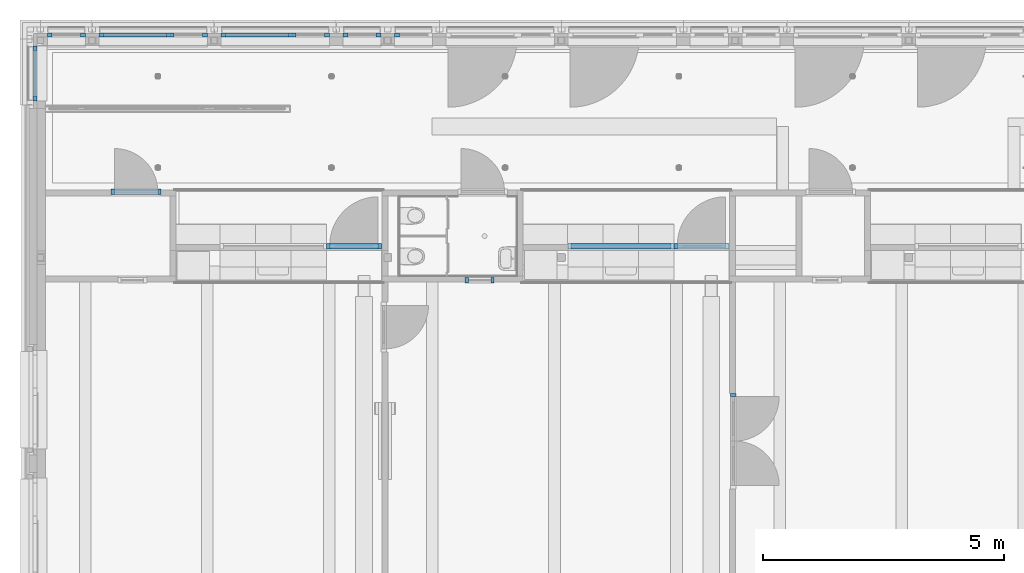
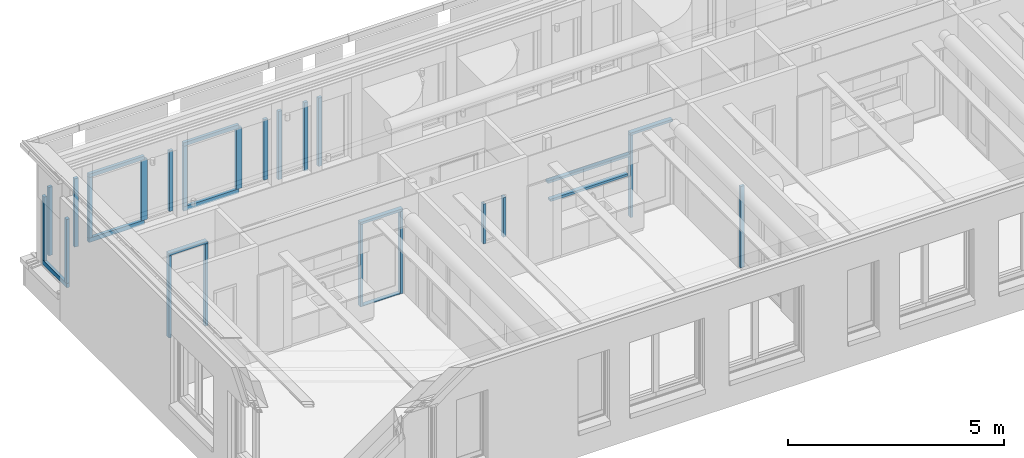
# One storey, part 14 of 128: 32 members, 12 elements without a shape of their own.
"""IFC2X3 building model written with IfcOpenShell, lengths in millimetres."""

from ifc_helpers import new_model, entity, si_unit, converted_unit, derived_unit, direction, frame, frame_2d, origin, origin_2d_with_axis, place, context, subcontext, project, spatial, rectangle, extrude, source, transform, mapped, material, type_object, type_shapes, element, aggregate, save


model = new_model("IFC2X3")

# Units and contexts
model_context = context("Model", 3, precision=0.01, world=origin(), true_north=direction((6.123031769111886e-17, 1.0)))
body_context = subcontext(model_context, "Body", "Model", "MODEL_VIEW")
ifc_project = project(units=[si_unit("LENGTHUNIT", "METRE", prefix="MILLI"), si_unit("AREAUNIT", "SQUARE_METRE"), si_unit("VOLUMEUNIT", "CUBIC_METRE"), converted_unit("PLANEANGLEUNIT", "DEGREE", entity("IfcRatioMeasure", 0.017453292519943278), si_unit("PLANEANGLEUNIT", "RADIAN"), dimensions=[0, 0, 0, 0, 0, 0, 0]), si_unit("MASSUNIT", "GRAM", prefix="KILO"), derived_unit("MASSDENSITYUNIT", [(si_unit("MASSUNIT", "GRAM", prefix="KILO"), 1), (si_unit("LENGTHUNIT", "METRE"), -3)]), derived_unit("IONCONCENTRATIONUNIT", [(si_unit("MASSUNIT", "GRAM", prefix="KILO"), 1), (si_unit("LENGTHUNIT", "METRE"), -3)]), derived_unit("MOMENTOFINERTIAUNIT", [(si_unit("LENGTHUNIT", "METRE"), 4)]), si_unit("TIMEUNIT", "SECOND"), si_unit("FREQUENCYUNIT", "HERTZ"), si_unit("THERMODYNAMICTEMPERATUREUNIT", "DEGREE_CELSIUS"), derived_unit("THERMALTRANSMITTANCEUNIT", [(si_unit("MASSUNIT", "GRAM", prefix="KILO"), 1), (si_unit("THERMODYNAMICTEMPERATUREUNIT", "KELVIN"), -1), (si_unit("TIMEUNIT", "SECOND"), -3)]), derived_unit("THERMALCONDUCTANCEUNIT", [(si_unit("MASSUNIT", "GRAM", prefix="KILO"), 1), (si_unit("THERMODYNAMICTEMPERATUREUNIT", "KELVIN"), -1), (si_unit("TIMEUNIT", "SECOND"), -3), (si_unit("LENGTHUNIT", "METRE"), 1)]), derived_unit("VOLUMETRICFLOWRATEUNIT", [(si_unit("LENGTHUNIT", "METRE"), 3), (si_unit("TIMEUNIT", "SECOND"), -1)]), derived_unit("MASSFLOWRATEUNIT", [(si_unit("MASSUNIT", "GRAM", prefix="KILO"), 1), (si_unit("TIMEUNIT", "SECOND"), -1)]), derived_unit("ROTATIONALFREQUENCYUNIT", [(si_unit("TIMEUNIT", "SECOND"), -1)]), si_unit("ELECTRICCURRENTUNIT", "AMPERE"), si_unit("ELECTRICVOLTAGEUNIT", "VOLT"), si_unit("POWERUNIT", "WATT"), si_unit("FORCEUNIT", "NEWTON", prefix="KILO"), si_unit("ILLUMINANCEUNIT", "LUX"), si_unit("LUMINOUSFLUXUNIT", "LUMEN"), si_unit("LUMINOUSINTENSITYUNIT", "CANDELA"), derived_unit("USERDEFINED", [(si_unit("MASSUNIT", "GRAM", prefix="KILO"), -1), (si_unit("LENGTHUNIT", "METRE"), -2), (si_unit("TIMEUNIT", "SECOND"), 3), (si_unit("LUMINOUSFLUXUNIT", "LUMEN"), 1)]), derived_unit("USERDEFINED", [(si_unit("MASSUNIT", "GRAM", prefix="KILO"), 1), (si_unit("TIMEUNIT", "SECOND"), -3), (si_unit("LENGTHUNIT", "METRE"), 3), (si_unit("ELECTRICCURRENTUNIT", "AMPERE"), -2)]), derived_unit("SOUNDPOWERUNIT", [(si_unit("MASSUNIT", "GRAM", prefix="KILO"), 1), (si_unit("TIMEUNIT", "SECOND"), -3), (si_unit("LENGTHUNIT", "METRE"), 2)]), derived_unit("SOUNDPRESSUREUNIT", [(si_unit("MASSUNIT", "GRAM", prefix="KILO"), 1), (si_unit("LENGTHUNIT", "METRE"), -1), (si_unit("TIMEUNIT", "SECOND"), -2)]), derived_unit("LINEARVELOCITYUNIT", [(si_unit("LENGTHUNIT", "METRE"), 1), (si_unit("TIMEUNIT", "SECOND"), -1)]), si_unit("PRESSUREUNIT", "PASCAL"), derived_unit("USERDEFINED", [(si_unit("MASSUNIT", "GRAM", prefix="KILO"), 1), (si_unit("LENGTHUNIT", "METRE"), -2), (si_unit("TIMEUNIT", "SECOND"), -2)]), derived_unit("LINEARFORCEUNIT", [(si_unit("MASSUNIT", "GRAM", prefix="KILO"), 1), (si_unit("TIMEUNIT", "SECOND"), -2)]), derived_unit("PLANARFORCEUNIT", [(si_unit("MASSUNIT", "GRAM", prefix="KILO"), 1), (si_unit("LENGTHUNIT", "METRE"), -1), (si_unit("TIMEUNIT", "SECOND"), -2)]), derived_unit("SPECIFICHEATCAPACITYUNIT", [(si_unit("THERMODYNAMICTEMPERATUREUNIT", "KELVIN"), -1), (si_unit("LENGTHUNIT", "METRE"), 2), (si_unit("TIMEUNIT", "SECOND"), -2)]), derived_unit("HEATINGVALUEUNIT", [(si_unit("LENGTHUNIT", "METRE"), 2), (si_unit("TIMEUNIT", "SECOND"), -2)]), derived_unit("VAPORPERMEABILITYUNIT", [(si_unit("LENGTHUNIT", "METRE"), -1), (si_unit("TIMEUNIT", "SECOND"), 1)]), derived_unit("DYNAMICVISCOSITYUNIT", [(si_unit("MASSUNIT", "GRAM", prefix="KILO"), 1), (si_unit("TIMEUNIT", "SECOND"), -1), (si_unit("LENGTHUNIT", "METRE"), -1)]), derived_unit("THERMALEXPANSIONCOEFFICIENTUNIT", [(si_unit("THERMODYNAMICTEMPERATUREUNIT", "KELVIN"), -1)]), derived_unit("MODULUSOFELASTICITYUNIT", [(si_unit("MASSUNIT", "GRAM", prefix="KILO"), 1), (si_unit("LENGTHUNIT", "METRE"), -1), (si_unit("TIMEUNIT", "SECOND"), -2)]), derived_unit("ISOTHERMALMOISTURECAPACITYUNIT", [(si_unit("LENGTHUNIT", "METRE"), 3), (si_unit("MASSUNIT", "GRAM", prefix="KILO"), -1)]), derived_unit("MOISTUREDIFFUSIVITYUNIT", [(si_unit("TIMEUNIT", "SECOND"), -1), (si_unit("LENGTHUNIT", "METRE"), 2)])], contexts=[model_context])

# Site, building, storey
site_placement = place(None, frame((0.0, 300.0, 0.0)))
site = spatial("IfcSite", under=ifc_project, at=site_placement, Name="<Kadastrale nummers>", CompositionType="ELEMENT")
building_placement = place(site_placement, origin())
building = spatial("IfcBuilding", under=site, at=building_placement, CompositionType="ELEMENT")
storey_placement = place(building_placement, frame((0.0, 0.0, 3560.0000331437)))
storey = spatial("IfcBuildingStorey", under=building, at=storey_placement, Name="01 eerste verdieping", CompositionType="ELEMENT", Elevation=3560.0000331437)

# Curtain wall, members
curtain_wall_type_1 = type_object("IfcCurtainWallType", Name="Curtain Wall:Merk H09", PredefinedType="NOTDEFINED")
curtain_wall_1_placement = place(storey_placement, frame((0.0, 0.0, -3560.0000331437)))
curtain_wall_1 = element("IfcCurtainWall", 1, at=curtain_wall_1_placement, inside=storey, type_object=curtain_wall_type_1, Name="Curtain Wall:Merk H09", ObjectType="Curtain Wall:Merk H09")
ifc_material_1 = material(Name="ISR_HPL")
member_type_1 = type_object("IfcMemberType", Name="Rectangular Mullion:31_CWM_067x114", PredefinedType="MULLION", material=ifc_material_1)
shared_shape_1 = source(origin(), body_context, "Body", "SweptSolid", [
    extrude(rectangle(XDim=113.99999999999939, YDim=67.0, at=origin_2d_with_axis()), frame((-33.5, -57.0, -2323.0), z_axis=(0.0, 0.0, 1.0), x_axis=(0.0, -1.0, 0.0)), (0.0, 0.0, 1.0), 2323.0),
])
type_shapes(member_type_1, [shared_shape_1])
member_1_placement = place(curtain_wall_1_placement, frame((10065.0, 45476.0, 3650.0000350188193), z_axis=(0.0, 0.0, -1.0), x_axis=(1.0, 0.0, 0.0)))
member_1 = element("IfcMember", 2, at=member_1_placement, type_object=member_type_1, material=ifc_material_1, Name="Rectangular Mullion:31_CWM_067x114", ObjectType="Rectangular Mullion:31_CWM_067x114", context=body_context, shape_type="MappedRepresentation", body=[
    mapped(shared_shape_1, transform((0.0, 0.0, 0.0), scale=1.0)),
])
member_type_2 = type_object("IfcMemberType", Name="Rectangular Mullion:31_CWM_067x114", PredefinedType="MULLION", material=ifc_material_1)
shared_shape_2 = source(origin(), body_context, "Body", "SweptSolid", [
    extrude(rectangle(XDim=113.9999999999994, YDim=67.0, at=frame_2d((1.0658141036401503e-14, 0.0), x_axis=(1.0, 0.0))), frame((-33.5, -57.0, -2323.0), z_axis=(0.0, 0.0, 1.0), x_axis=(0.0, -1.0, 0.0)), (0.0, 0.0, 1.0), 2323.0),
])
type_shapes(member_type_2, [shared_shape_2])
member_2_placement = place(curtain_wall_1_placement, frame((8931.0, 45476.0, 5973.0000331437), z_axis=(0.0, 0.0, 1.0), x_axis=(-1.0, 0.0, 0.0)))
member_2 = element("IfcMember", 3, at=member_2_placement, type_object=member_type_2, material=ifc_material_1, Name="Rectangular Mullion:31_CWM_067x114", ObjectType="Rectangular Mullion:31_CWM_067x114", context=body_context, shape_type="MappedRepresentation", body=[
    mapped(shared_shape_2, transform((0.0, 0.0, 0.0), scale=1.0)),
])

# Curtain wall, member
curtain_wall_2_placement = place(storey_placement, frame((0.0, 0.0, -3560.0000331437)))
curtain_wall_2 = element("IfcCurtainWall", 4, at=curtain_wall_2_placement, inside=storey, type_object=curtain_wall_type_1, Name="Curtain Wall:Merk H09", ObjectType="Curtain Wall:Merk H09")
member_3_placement = place(curtain_wall_2_placement, frame((16136.0, 45476.0, 5973.0000331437), z_axis=(0.0, 0.0, 1.0), x_axis=(-1.0, 0.0, 0.0)))
member_3 = element("IfcMember", 5, at=member_3_placement, type_object=member_type_2, material=ifc_material_1, Name="Rectangular Mullion:31_CWM_067x114", ObjectType="Rectangular Mullion:31_CWM_067x114", context=body_context, shape_type="MappedRepresentation", body=[
    mapped(shared_shape_2, transform((0.0, 0.0, 0.0), scale=1.0)),
])

# Curtain wall, members
curtain_wall_type_2 = type_object("IfcCurtainWallType", Name="Curtain Wall:Merk H01", PredefinedType="NOTDEFINED")
curtain_wall_3_placement = place(storey_placement, frame((0.0, 0.0, -3560.0000331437)))
curtain_wall_3 = element("IfcCurtainWall", 6, at=curtain_wall_3_placement, inside=storey, type_object=curtain_wall_type_2, Name="Curtain Wall:Merk H01", ObjectType="Curtain Wall:Merk H01")
member_type_3 = type_object("IfcMemberType", Name="Rectangular Mullion:31_CWM_067x114", PredefinedType="MULLION", material=ifc_material_1)
shared_shape_3 = source(origin(), body_context, "Body", "SweptSolid", [
    extrude(rectangle(XDim=113.99999999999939, YDim=67.0, at=origin_2d_with_axis()), frame((-33.5, 57.0, -2323.0), z_axis=(0.0, 0.0, 1.0), x_axis=(0.0, -1.0, 0.0)), (0.0, 0.0, 1.0), 2323.0),
])
type_shapes(member_type_3, [shared_shape_3])
member_4_placement = place(curtain_wall_3_placement, frame((4466.0, 46606.0, 3650.00003501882), z_axis=(0.0, 0.0, -1.0), x_axis=(-1.0, 0.0, 0.0)))
member_4 = element("IfcMember", 7, at=member_4_placement, type_object=member_type_3, material=ifc_material_1, Name="Rectangular Mullion:31_CWM_067x114", ObjectType="Rectangular Mullion:31_CWM_067x114", context=body_context, shape_type="MappedRepresentation", body=[
    mapped(shared_shape_3, transform((0.0, 0.0, 0.0), scale=1.0)),
])
member_type_4 = type_object("IfcMemberType", Name="Rectangular Mullion:31_CWM_067x114", PredefinedType="MULLION", material=ifc_material_1)
shared_shape_4 = source(origin(), body_context, "Body", "SweptSolid", [
    extrude(rectangle(XDim=113.99999999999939, YDim=67.0, at=origin_2d_with_axis()), frame((-33.5, 57.0, -2323.0), z_axis=(0.0, 0.0, 1.0), x_axis=(0.0, -1.0, 0.0)), (0.0, 0.0, 1.0), 2323.0),
])
type_shapes(member_type_4, [shared_shape_4])
member_5_placement = place(curtain_wall_3_placement, frame((5500.0, 46606.0, 5973.0000331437)))
member_5 = element("IfcMember", 8, at=member_5_placement, type_object=member_type_4, material=ifc_material_1, Name="Rectangular Mullion:31_CWM_067x114", ObjectType="Rectangular Mullion:31_CWM_067x114", context=body_context, shape_type="MappedRepresentation", body=[
    mapped(shared_shape_4, transform((0.0, 0.0, 0.0), scale=1.0)),
])
member_type_5 = type_object("IfcMemberType", Name="Rectangular Mullion:31_CWM_067x114", PredefinedType="MULLION", material=ifc_material_1)
shared_shape_5 = source(origin(), body_context, "Body", "SweptSolid", [
    extrude(rectangle(XDim=113.99999999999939, YDim=67.0, at=origin_2d_with_axis()), frame((-33.5, 57.0, -1034.0), z_axis=(0.0, 0.0, 1.0), x_axis=(0.0, -1.0, 0.0)), (0.0, 0.0, 1.0), 1033.9999999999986),
])
type_shapes(member_type_5, [shared_shape_5])
member_6_placement = place(curtain_wall_3_placement, frame((4466.0, 46606.0, 6040.0000331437), z_axis=(-1.0, 0.0, 0.0), x_axis=(0.0, 0.0, 1.0)))
member_6 = element("IfcMember", 9, at=member_6_placement, type_object=member_type_5, material=ifc_material_1, Name="Rectangular Mullion:31_CWM_067x114", ObjectType="Rectangular Mullion:31_CWM_067x114", context=body_context, shape_type="MappedRepresentation", body=[
    mapped(shared_shape_5, transform((0.0, 0.0, 0.0), scale=1.0)),
])
aggregate(curtain_wall_3, [member_6, member_4, member_5])

# Curtain wall, member
curtain_wall_type_3 = type_object("IfcCurtainWallType", Name="Curtain Wall:Merk H07", PredefinedType="NOTDEFINED")
curtain_wall_4_placement = place(storey_placement, frame((0.0, 0.0, -3560.0000331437)))
curtain_wall_4 = element("IfcCurtainWall", 10, at=curtain_wall_4_placement, inside=storey, type_object=curtain_wall_type_3, Name="Curtain Wall:Merk H07", ObjectType="Curtain Wall:Merk H07")
member_type_6 = type_object("IfcMemberType", Name="Rectangular Mullion:31_CWM_067x114", PredefinedType="MULLION", material=ifc_material_1)
shared_shape_6 = source(origin(), body_context, "Body", "SweptSolid", [
    extrude(rectangle(XDim=113.99999999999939, YDim=67.0, at=origin_2d_with_axis()), frame((-33.5, 57.0, -2303.0), z_axis=(0.0, 0.0, 1.0), x_axis=(0.0, -1.0, 0.0)), (0.0, 0.0, 1.0), 2303.0),
])
type_shapes(member_type_6, [shared_shape_6])
member_7_placement = place(curtain_wall_4_placement, frame((17306.0, 42485.0, 3670.0000350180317), z_axis=(0.0, 0.0, -1.0), x_axis=(0.0, 1.0, 0.0)))
member_7 = element("IfcMember", 11, at=member_7_placement, type_object=member_type_6, material=ifc_material_1, Name="Rectangular Mullion:31_CWM_067x114", ObjectType="Rectangular Mullion:31_CWM_067x114", context=body_context, shape_type="MappedRepresentation", body=[
    mapped(shared_shape_6, transform((0.0, 0.0, 0.0), scale=1.0)),
])
aggregate(curtain_wall_4, [member_7])

# Member
member_type_7 = type_object("IfcMemberType", Name="Rectangular Mullion:31_CWM_067x114", PredefinedType="MULLION", material=ifc_material_1)
shared_shape_7 = source(origin(), body_context, "Body", "SweptSolid", [
    extrude(rectangle(XDim=113.99999999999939, YDim=67.0, at=origin_2d_with_axis()), frame((-33.5, -57.0, -1134.0), z_axis=(0.0, 0.0, 1.0), x_axis=(0.0, -1.0, 0.0)), (0.0, 0.0, 1.0), 1133.9999999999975),
])
type_shapes(member_type_7, [shared_shape_7])
member_8_placement = place(curtain_wall_1_placement, frame((10065.0, 45476.0, 6040.0000331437), z_axis=(1.0, 0.0, 0.0), x_axis=(0.0, 0.0, 1.0)))
member_8 = element("IfcMember", 12, at=member_8_placement, type_object=member_type_7, material=ifc_material_1, Name="Rectangular Mullion:31_CWM_067x114", ObjectType="Rectangular Mullion:31_CWM_067x114", context=body_context, shape_type="MappedRepresentation", body=[
    mapped(shared_shape_7, transform((0.0, 0.0, 0.0), scale=1.0)),
])

member_9_placement = place(curtain_wall_2_placement, frame((17270.0, 45476.0, 6040.0000331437), z_axis=(1.0, 0.0, 0.0), x_axis=(0.0, 0.0, 1.0)))
member_9 = element("IfcMember", 13, at=member_9_placement, type_object=member_type_7, material=ifc_material_1, Name="Rectangular Mullion:31_CWM_067x114", ObjectType="Rectangular Mullion:31_CWM_067x114", context=body_context, shape_type="MappedRepresentation", body=[
    mapped(shared_shape_7, transform((0.0, 0.0, 0.0), scale=1.0)),
])

aggregate(curtain_wall_2, [member_3, member_9])

ifc_material_2 = material(Name="ISR_Kunststof_grijs")
member_type_8 = type_object("IfcMemberType", Name="Rectangular Mullion:31_CWM_020x114", PredefinedType="MULLION", material=ifc_material_2)
shared_shape_8 = source(origin(), body_context, "Body", "SweptSolid", [
    extrude(rectangle(XDim=113.9999999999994, YDim=20.0, at=frame_2d((1.0658141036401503e-14, 0.0), x_axis=(1.0, 0.0))), frame((-10.0, -57.0, -1000.0), z_axis=(0.0, 0.0, 1.0), x_axis=(0.0, -1.0, 0.0)), (0.0, 0.0, 1.0), 999.999999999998),
])
type_shapes(member_type_8, [shared_shape_8])
member_10_placement = place(curtain_wall_1_placement, frame((8998.0, 45476.0, 3650.0000350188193), z_axis=(-1.0, 0.0, 0.0), x_axis=(0.0, 0.0, -1.0)))
member_10 = element("IfcMember", 14, at=member_10_placement, type_object=member_type_8, material=ifc_material_2, Name="Rectangular Mullion:31_CWM_020x114", ObjectType="Rectangular Mullion:31_CWM_020x114", context=body_context, shape_type="MappedRepresentation", body=[
    mapped(shared_shape_8, transform((0.0, 0.0, 0.0), scale=1.0)),
])

aggregate(curtain_wall_1, [member_2, member_8, member_10, member_1])

# Curtain wall, members
curtain_wall_type_4 = type_object("IfcCurtainWallType", Name="Curtain Wall:Merk H05", PredefinedType="NOTDEFINED")
curtain_wall_5_placement = place(storey_placement, frame((0.0, 0.0, -3560.0000331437)))
curtain_wall_5 = element("IfcCurtainWall", 15, at=curtain_wall_5_placement, inside=storey, type_object=curtain_wall_type_4, Name="Curtain Wall:Merk H05", ObjectType="Curtain Wall:Merk H05")
member_type_9 = type_object("IfcMemberType", Name="Rectangular Mullion:31_CWM_067x114", PredefinedType="MULLION", material=ifc_material_1)
shared_shape_9 = source(origin(), body_context, "Body", "SweptSolid", [
    extrude(rectangle(XDim=113.9999999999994, YDim=67.0, at=frame_2d((1.0658141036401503e-14, 0.0), x_axis=(1.0, 0.0))), frame((-33.5, -57.0, -1123.0), z_axis=(0.0, 0.0, 1.0), x_axis=(0.0, -1.0, 0.0)), (0.0, 0.0, 1.0), 1123.0000000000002),
])
type_shapes(member_type_9, [shared_shape_9])
member_11_placement = place(curtain_wall_5_placement, frame((11805.0, 44889.0, 4850.0000331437), z_axis=(0.0, 0.0, -1.0), x_axis=(-1.0, 0.0, 0.0)))
member_11 = element("IfcMember", 16, at=member_11_placement, type_object=member_type_9, material=ifc_material_1, Name="Rectangular Mullion:31_CWM_067x114", ObjectType="Rectangular Mullion:31_CWM_067x114", context=body_context, shape_type="MappedRepresentation", body=[
    mapped(shared_shape_9, transform((0.0, 0.0, 0.0), scale=1.0)),
])
member_type_10 = type_object("IfcMemberType", Name="Rectangular Mullion:31_CWM_067x114", PredefinedType="MULLION", material=ifc_material_1)
shared_shape_10 = source(origin(), body_context, "Body", "SweptSolid", [
    extrude(rectangle(XDim=113.9999999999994, YDim=67.0, at=frame_2d((1.0658141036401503e-14, 0.0), x_axis=(1.0, 0.0))), frame((-33.5, -57.0, -1123.0), z_axis=(0.0, 0.0, 1.0), x_axis=(0.0, -1.0, 0.0)), (0.0, 0.0, 1.0), 1123.0000000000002),
])
type_shapes(member_type_10, [shared_shape_10])
member_12_placement = place(curtain_wall_5_placement, frame((12405.0, 44889.0, 5973.0000331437)))
member_12 = element("IfcMember", 17, at=member_12_placement, type_object=member_type_10, material=ifc_material_1, Name="Rectangular Mullion:31_CWM_067x114", ObjectType="Rectangular Mullion:31_CWM_067x114", context=body_context, shape_type="MappedRepresentation", body=[
    mapped(shared_shape_10, transform((0.0, 0.0, 0.0), scale=1.0)),
])
aggregate(curtain_wall_5, [member_11, member_12])

curtain_wall_type_5 = type_object("IfcCurtainWallType", Name="Curtain Wall:Merk H13", PredefinedType="NOTDEFINED")
curtain_wall_6_placement = place(storey_placement, frame((0.0, 0.0, -3560.0000331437)))
curtain_wall_6 = element("IfcCurtainWall", 18, at=curtain_wall_6_placement, inside=storey, type_object=curtain_wall_type_5, Name="Curtain Wall:Merk H13", ObjectType="Curtain Wall:Merk H13")
member_type_11 = type_object("IfcMemberType", Name="Rectangular Mullion:31_CWM_067x114", PredefinedType="MULLION", material=ifc_material_1)
shared_shape_11 = source(origin(), body_context, "Body", "SweptSolid", [
    extrude(rectangle(XDim=113.9999999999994, YDim=67.0, at=frame_2d((1.0658141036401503e-14, 0.0), x_axis=(1.0, 0.0))), frame((-33.5, -57.0, -2205.0), z_axis=(0.0, 0.0, 1.0), x_axis=(0.0, -1.0, 0.0)), (0.0, 0.0, 1.0), 2205.0000000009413),
])
type_shapes(member_type_11, [shared_shape_11])
member_13_placement = place(curtain_wall_6_placement, frame((16136.0, 45476.0, 5450.0000331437), z_axis=(1.0, 0.0, 0.0), x_axis=(0.0, 0.0, 1.0)))
member_13 = element("IfcMember", 19, at=member_13_placement, type_object=member_type_11, material=ifc_material_1, Name="Rectangular Mullion:31_CWM_067x114", ObjectType="Rectangular Mullion:31_CWM_067x114", context=body_context, shape_type="MappedRepresentation", body=[
    mapped(shared_shape_11, transform((0.0, 0.0, 0.0), scale=1.0)),
])
member_type_12 = type_object("IfcMemberType", Name="Rectangular Mullion:31_CWM_067x114", PredefinedType="MULLION", material=ifc_material_1)
shared_shape_12 = source(origin(), body_context, "Body", "SweptSolid", [
    extrude(rectangle(XDim=113.9999999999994, YDim=67.0, at=frame_2d((1.0658141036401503e-14, 0.0), x_axis=(1.0, 0.0))), frame((-33.5, -57.0, -2071.0), z_axis=(0.0, 0.0, 1.0), x_axis=(0.0, -1.0, 0.0)), (0.0, 0.0, 1.0), 2071.000000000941),
])
type_shapes(member_type_12, [shared_shape_12])
member_14_placement = place(curtain_wall_6_placement, frame((13998.0, 45476.0, 4850.0000331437), z_axis=(-1.0, 0.0, 0.0), x_axis=(0.0, 0.0, -1.0)))
member_14 = element("IfcMember", 20, at=member_14_placement, type_object=member_type_12, material=ifc_material_1, Name="Rectangular Mullion:31_CWM_067x114", ObjectType="Rectangular Mullion:31_CWM_067x114", context=body_context, shape_type="MappedRepresentation", body=[
    mapped(shared_shape_12, transform((0.0, 0.0, 0.0), scale=1.0)),
])
aggregate(curtain_wall_6, [member_13, member_14])

curtain_wall_type_6 = type_object("IfcCurtainWallType", Name="Curtain Wall:K_25", PredefinedType="NOTDEFINED")
curtain_wall_7_placement = place(storey_placement, frame((0.0, 0.0, -3560.0000331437)))
curtain_wall_7 = element("IfcCurtainWall", 21, at=curtain_wall_7_placement, inside=storey, type_object=curtain_wall_type_6, Name="Curtain Wall:K_25", ObjectType="Curtain Wall:K_25")
ifc_material_3 = material(Name="ISR_Kunststof_RAL7006")
member_type_13 = type_object("IfcMemberType", Name="Rectangular Mullion:120x83 Gealan Kubus", PredefinedType="MULLION", material=ifc_material_3)
shared_shape_13 = source(origin(), body_context, "Body", "SweptSolid", [
    extrude(rectangle(XDim=83.0, YDim=120.0, at=origin_2d_with_axis()), frame((-60.0, -41.5, -1145.0), z_axis=(0.0, 0.0, 1.0), x_axis=(0.0, -1.0, 0.0)), (0.0, 0.0, 1.0), 1144.9999999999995),
])
type_shapes(member_type_13, [shared_shape_13])
member_15_placement = place(curtain_wall_7_placement, frame((2931.998623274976, 48545.0, 4460.0), z_axis=(0.0, -1.0, 0.0), x_axis=(0.0, 0.0, -1.0)))
member_15 = element("IfcMember", 22, at=member_15_placement, type_object=member_type_13, material=ifc_material_3, Name="Rectangular Mullion:120x83 Gealan Kubus", ObjectType="Rectangular Mullion:120x83 Gealan Kubus", context=body_context, shape_type="MappedRepresentation", body=[
    mapped(shared_shape_13, transform((0.0, 0.0, 0.0), scale=1.0)),
])
member_type_14 = type_object("IfcMemberType", Name="Rectangular Mullion:100x83 Gealan Kubus", PredefinedType="MULLION", material=ifc_material_3)
shared_shape_14 = source(origin(), body_context, "Body", "SweptSolid", [
    extrude(rectangle(XDim=83.0, YDim=100.0, at=origin_2d_with_axis()), frame((-50.0, -41.5, -1810.0), z_axis=(0.0, 0.0, 1.0), x_axis=(0.0, -1.0, 0.0)), (0.0, 0.0, 1.0), 1809.9999999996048),
])
type_shapes(member_type_14, [shared_shape_14])
member_16_placement = place(curtain_wall_7_placement, frame((2931.9986232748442, 49690.0, 4580.0), z_axis=(0.0, 0.0, -1.0), x_axis=(0.0, 1.0, 0.0)))
member_16 = element("IfcMember", 23, at=member_16_placement, type_object=member_type_14, material=ifc_material_3, Name="Rectangular Mullion:100x83 Gealan Kubus", ObjectType="Rectangular Mullion:100x83 Gealan Kubus", context=body_context, shape_type="MappedRepresentation", body=[
    mapped(shared_shape_14, transform((0.0, 0.0, 0.0), scale=1.0)),
])
member_type_15 = type_object("IfcMemberType", Name="Rectangular Mullion:100x83 Gealan Kubus", PredefinedType="MULLION", material=ifc_material_3)
shared_shape_15 = source(origin(), body_context, "Body", "SweptSolid", [
    extrude(rectangle(XDim=83.0, YDim=100.0, at=origin_2d_with_axis()), frame((-50.0, -41.5, -1810.0), z_axis=(0.0, 0.0, 1.0), x_axis=(0.0, -1.0, 0.0)), (0.0, 0.0, 1.0), 1809.9999999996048),
])
type_shapes(member_type_15, [shared_shape_15])
member_17_placement = place(curtain_wall_7_placement, frame((2931.998623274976, 48545.0, 6390.0), z_axis=(0.0, 0.0, 1.0), x_axis=(0.0, -1.0, 0.0)))
member_17 = element("IfcMember", 24, at=member_17_placement, type_object=member_type_15, material=ifc_material_3, Name="Rectangular Mullion:100x83 Gealan Kubus", ObjectType="Rectangular Mullion:100x83 Gealan Kubus", context=body_context, shape_type="MappedRepresentation", body=[
    mapped(shared_shape_15, transform((0.0, 0.0, 0.0), scale=1.0)),
])
aggregate(curtain_wall_7, [member_15, member_16, member_17])

# Curtain wall, member
curtain_wall_type_7 = type_object("IfcCurtainWallType", Name="Curtain Wall:K_29", PredefinedType="NOTDEFINED")
curtain_wall_8_placement = place(storey_placement, frame((0.0, 0.0, -3560.0000331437)))
curtain_wall_8 = element("IfcCurtainWall", 25, at=curtain_wall_8_placement, inside=storey, type_object=curtain_wall_type_7, Name="Curtain Wall:K_29", ObjectType="Curtain Wall:K_29")
member_type_16 = type_object("IfcMemberType", Name="Rectangular Mullion:100x83 Gealan Kubus", PredefinedType="MULLION", material=ifc_material_3)
shared_shape_16 = source(origin(), body_context, "Body", "SweptSolid", [
    extrude(rectangle(XDim=83.0, YDim=100.0, at=origin_2d_with_axis()), frame((-50.0, 41.5, -1929.9999649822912), z_axis=(0.0, 0.0, 1.0), x_axis=(0.0, -1.0, 0.0)), (0.0, 0.0, 1.0), 1929.9999649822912),
])
type_shapes(member_type_16, [shared_shape_16])
member_18_placement = place(curtain_wall_8_placement, frame((3140.0, 49868.0, 4460.000035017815), z_axis=(0.0, 0.0, -1.0), x_axis=(-1.0, 0.0, 0.0)))
member_18 = element("IfcMember", 26, at=member_18_placement, type_object=member_type_16, material=ifc_material_3, Name="Rectangular Mullion:100x83 Gealan Kubus", ObjectType="Rectangular Mullion:100x83 Gealan Kubus", context=body_context, shape_type="MappedRepresentation", body=[
    mapped(shared_shape_16, transform((0.0, 0.0, 0.0), scale=1.0)),
])

curtain_wall_9_placement = place(storey_placement, frame((0.0, 0.0, -3560.0000331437)))
curtain_wall_9 = element("IfcCurtainWall", 27, at=curtain_wall_9_placement, inside=storey, type_object=curtain_wall_type_7, Name="Curtain Wall:K_29", ObjectType="Curtain Wall:K_29")
member_19_placement = place(curtain_wall_9_placement, frame((10340.0, 49868.0, 4460.000035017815), z_axis=(0.0, 0.0, -1.0), x_axis=(-1.0, 0.0, 0.0)))
member_19 = element("IfcMember", 28, at=member_19_placement, type_object=member_type_16, material=ifc_material_3, Name="Rectangular Mullion:100x83 Gealan Kubus", ObjectType="Rectangular Mullion:100x83 Gealan Kubus", context=body_context, shape_type="MappedRepresentation", body=[
    mapped(shared_shape_16, transform((0.0, 0.0, 0.0), scale=1.0)),
])
aggregate(curtain_wall_9, [member_19])

curtain_wall_10_placement = place(storey_placement, frame((0.0, 0.0, -3560.0000331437)))
curtain_wall_10 = element("IfcCurtainWall", 29, at=curtain_wall_10_placement, inside=storey, type_object=curtain_wall_type_7, Name="Curtain Wall:K_29", ObjectType="Curtain Wall:K_29")
member_20_placement = place(curtain_wall_10_placement, frame((9270.0, 49868.0, 4460.000035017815), z_axis=(0.0, 0.0, -1.0), x_axis=(-1.0, 0.0, 0.0)))
member_20 = element("IfcMember", 30, at=member_20_placement, type_object=member_type_16, material=ifc_material_3, Name="Rectangular Mullion:100x83 Gealan Kubus", ObjectType="Rectangular Mullion:100x83 Gealan Kubus", context=body_context, shape_type="MappedRepresentation", body=[
    mapped(shared_shape_16, transform((0.0, 0.0, 0.0), scale=1.0)),
])

# Member
member_type_17 = type_object("IfcMemberType", Name="Rectangular Mullion:100x83 Gealan Kubus", PredefinedType="MULLION", material=ifc_material_3)
shared_shape_17 = source(origin(), body_context, "Body", "SweptSolid", [
    extrude(rectangle(XDim=83.0, YDim=100.0, at=origin_2d_with_axis()), frame((-50.0, 41.5, -1929.9999649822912), z_axis=(0.0, 0.0, 1.0), x_axis=(0.0, -1.0, 0.0)), (0.0, 0.0, 1.0), 1929.9999649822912),
])
type_shapes(member_type_17, [shared_shape_17])
member_21_placement = place(curtain_wall_8_placement, frame((3930.0, 49868.0, 6390.0)))
member_21 = element("IfcMember", 31, at=member_21_placement, type_object=member_type_17, material=ifc_material_3, Name="Rectangular Mullion:100x83 Gealan Kubus", ObjectType="Rectangular Mullion:100x83 Gealan Kubus", context=body_context, shape_type="MappedRepresentation", body=[
    mapped(shared_shape_17, transform((0.0, 0.0, 0.0), scale=1.0)),
])

aggregate(curtain_wall_8, [member_18, member_21])

member_22_placement = place(curtain_wall_10_placement, frame((10060.0, 49868.0, 6390.0)))
member_22 = element("IfcMember", 32, at=member_22_placement, type_object=member_type_17, material=ifc_material_3, Name="Rectangular Mullion:100x83 Gealan Kubus", ObjectType="Rectangular Mullion:100x83 Gealan Kubus", context=body_context, shape_type="MappedRepresentation", body=[
    mapped(shared_shape_17, transform((0.0, 0.0, 0.0), scale=1.0)),
])

aggregate(curtain_wall_10, [member_20, member_22])

# Curtain wall, member
curtain_wall_type_8 = type_object("IfcCurtainWallType", Name="Curtain Wall:K_32", PredefinedType="NOTDEFINED")
curtain_wall_11_placement = place(storey_placement, frame((0.0, 0.0, -3560.0000331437)))
curtain_wall_11 = element("IfcCurtainWall", 33, at=curtain_wall_11_placement, inside=storey, type_object=curtain_wall_type_8, Name="Curtain Wall:K_32", ObjectType="Curtain Wall:K_32")
member_type_18 = type_object("IfcMemberType", Name="Rectangular Mullion:100x83 Gealan Kubus", PredefinedType="MULLION", material=ifc_material_3)
shared_shape_18 = source(origin(), body_context, "Body", "SweptSolid", [
    extrude(rectangle(XDim=83.0, YDim=100.0, at=origin_2d_with_axis()), frame((-50.0, 41.5, -1483.0), z_axis=(0.0, 0.0, 1.0), x_axis=(0.0, -1.0, 0.0)), (0.0, 0.0, 1.0), 1483.0000000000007),
])
type_shapes(member_type_18, [shared_shape_18])
member_23_placement = place(curtain_wall_11_placement, frame((4210.0, 49868.0, 6390.0), z_axis=(-1.0, 0.0, 0.0), x_axis=(0.0, 0.0, 1.0)))
member_23 = element("IfcMember", 34, at=member_23_placement, type_object=member_type_18, material=ifc_material_3, Name="Rectangular Mullion:100x83 Gealan Kubus", ObjectType="Rectangular Mullion:100x83 Gealan Kubus", context=body_context, shape_type="MappedRepresentation", body=[
    mapped(shared_shape_18, transform((0.0, 0.0, 0.0), scale=1.0)),
])

curtain_wall_12_placement = place(storey_placement, frame((0.0, 0.0, -3560.0000331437)))
curtain_wall_12 = element("IfcCurtainWall", 35, at=curtain_wall_12_placement, inside=storey, type_object=curtain_wall_type_8, Name="Curtain Wall:K_32", ObjectType="Curtain Wall:K_32")
member_24_placement = place(curtain_wall_12_placement, frame((6740.0, 49868.0, 6390.0), z_axis=(-1.0, 0.0, 0.0), x_axis=(0.0, 0.0, 1.0)))
member_24 = element("IfcMember", 36, at=member_24_placement, type_object=member_type_18, material=ifc_material_3, Name="Rectangular Mullion:100x83 Gealan Kubus", ObjectType="Rectangular Mullion:100x83 Gealan Kubus", context=body_context, shape_type="MappedRepresentation", body=[
    mapped(shared_shape_18, transform((0.0, 0.0, 0.0), scale=1.0)),
])

# Member
member_type_19 = type_object("IfcMemberType", Name="Rectangular Mullion:100x83 Gealan Kubus", PredefinedType="MULLION", material=ifc_material_3)
shared_shape_19 = source(origin(), body_context, "Body", "SweptSolid", [
    extrude(rectangle(XDim=82.99999999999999, YDim=100.0, at=origin_2d_with_axis()), frame((-50.0, 41.49999999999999, -1709.9999649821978), z_axis=(0.0, 0.0, 1.0), x_axis=(0.0, -1.0, 0.0)), (0.0, 0.0, 1.0), 1709.9999649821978),
])
type_shapes(member_type_19, [shared_shape_19])
member_25_placement = place(curtain_wall_11_placement, frame((4210.0, 49868.0, 4580.0000331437), z_axis=(0.0, 0.0, -1.0), x_axis=(-1.0, 0.0, 0.0)))
member_25 = element("IfcMember", 37, at=member_25_placement, type_object=member_type_19, material=ifc_material_3, Name="Rectangular Mullion:100x83 Gealan Kubus", ObjectType="Rectangular Mullion:100x83 Gealan Kubus", context=body_context, shape_type="MappedRepresentation", body=[
    mapped(shared_shape_19, transform((0.0, 0.0, 0.0), scale=1.0)),
])

member_26_placement = place(curtain_wall_12_placement, frame((6740.0, 49868.0, 4580.0000331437), z_axis=(0.0, 0.0, -1.0), x_axis=(-1.0, 0.0, 0.0)))
member_26 = element("IfcMember", 38, at=member_26_placement, type_object=member_type_19, material=ifc_material_3, Name="Rectangular Mullion:100x83 Gealan Kubus", ObjectType="Rectangular Mullion:100x83 Gealan Kubus", context=body_context, shape_type="MappedRepresentation", body=[
    mapped(shared_shape_19, transform((0.0, 0.0, 0.0), scale=1.0)),
])

member_type_20 = type_object("IfcMemberType", Name="Rectangular Mullion:100x83 Gealan Kubus", PredefinedType="MULLION", material=ifc_material_3)
shared_shape_20 = source(origin(), body_context, "Body", "SweptSolid", [
    extrude(rectangle(XDim=83.00000000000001, YDim=100.0, at=origin_2d_with_axis()), frame((-50.0, 41.50000000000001, -1709.9999649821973), z_axis=(0.0, 0.0, 1.0), x_axis=(0.0, -1.0, 0.0)), (0.0, 0.0, 1.0), 1709.9999649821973),
])
type_shapes(member_type_20, [shared_shape_20])
member_27_placement = place(curtain_wall_11_placement, frame((6460.0, 49868.0, 6290.0)))
member_27 = element("IfcMember", 39, at=member_27_placement, type_object=member_type_20, material=ifc_material_3, Name="Rectangular Mullion:100x83 Gealan Kubus", ObjectType="Rectangular Mullion:100x83 Gealan Kubus", context=body_context, shape_type="MappedRepresentation", body=[
    mapped(shared_shape_20, transform((0.0, 0.0, 0.0), scale=1.0)),
])

member_28_placement = place(curtain_wall_12_placement, frame((8990.0, 49868.0, 6290.0)))
member_28 = element("IfcMember", 40, at=member_28_placement, type_object=member_type_20, material=ifc_material_3, Name="Rectangular Mullion:100x83 Gealan Kubus", ObjectType="Rectangular Mullion:100x83 Gealan Kubus", context=body_context, shape_type="MappedRepresentation", body=[
    mapped(shared_shape_20, transform((0.0, 0.0, 0.0), scale=1.0)),
])

member_type_21 = type_object("IfcMemberType", Name="Rectangular Mullion:120x83 Gealan Kubus", PredefinedType="MULLION", material=ifc_material_3)
shared_shape_21 = source(origin(), body_context, "Body", "SweptSolid", [
    extrude(rectangle(XDim=83.00000000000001, YDim=120.0, at=origin_2d_with_axis()), frame((-60.0, 41.50000000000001, -1483.0), z_axis=(0.0, 0.0, 1.0), x_axis=(0.0, -1.0, 0.0)), (0.0, 0.0, 1.0), 1483.0000000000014),
])
type_shapes(member_type_21, [shared_shape_21])
member_29_placement = place(curtain_wall_11_placement, frame((5693.0, 49868.0, 4460.000035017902), z_axis=(1.0, 0.0, 0.0), x_axis=(0.0, 0.0, -1.0)))
member_29 = element("IfcMember", 41, at=member_29_placement, type_object=member_type_21, material=ifc_material_3, Name="Rectangular Mullion:120x83 Gealan Kubus", ObjectType="Rectangular Mullion:120x83 Gealan Kubus", context=body_context, shape_type="MappedRepresentation", body=[
    mapped(shared_shape_21, transform((0.0, 0.0, 0.0), scale=1.0)),
])

member_30_placement = place(curtain_wall_12_placement, frame((8223.0, 49868.0, 4460.000035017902), z_axis=(1.0, 0.0, 0.0), x_axis=(0.0, 0.0, -1.0)))
member_30 = element("IfcMember", 42, at=member_30_placement, type_object=member_type_21, material=ifc_material_3, Name="Rectangular Mullion:120x83 Gealan Kubus", ObjectType="Rectangular Mullion:120x83 Gealan Kubus", context=body_context, shape_type="MappedRepresentation", body=[
    mapped(shared_shape_21, transform((0.0, 0.0, 0.0), scale=1.0)),
])

member_type_22 = type_object("IfcMemberType", Name="Rectangular Mullion:154x83 Gealan Kubus", PredefinedType="MULLION", material=ifc_material_3)
shared_shape_22 = source(origin(), body_context, "Body", "SweptSolid", [
    extrude(rectangle(XDim=83.00000000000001, YDim=154.0, at=origin_2d_with_axis()), frame((0.0, 41.50000000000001, -1710.0), z_axis=(0.0, 0.0, 1.0), x_axis=(0.0, -1.0, 0.0)), (0.0, 0.0, 1.0), 1710.0000000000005),
])
type_shapes(member_type_22, [shared_shape_22])
member_31_placement = place(curtain_wall_11_placement, frame((5693.0, 49868.0, 4580.0000331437), z_axis=(0.0, 0.0, -1.0), x_axis=(-1.0, 0.0, 0.0)))
member_31 = element("IfcMember", 43, at=member_31_placement, type_object=member_type_22, material=ifc_material_3, Name="Rectangular Mullion:154x83 Gealan Kubus", ObjectType="Rectangular Mullion:154x83 Gealan Kubus", context=body_context, shape_type="MappedRepresentation", body=[
    mapped(shared_shape_22, transform((0.0, 0.0, 0.0), scale=1.0)),
])

aggregate(curtain_wall_11, [member_23, member_25, member_27, member_29, member_31])

member_32_placement = place(curtain_wall_12_placement, frame((8223.0, 49868.0, 4580.0000331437), z_axis=(0.0, 0.0, -1.0), x_axis=(-1.0, 0.0, 0.0)))
member_32 = element("IfcMember", 44, at=member_32_placement, type_object=member_type_22, material=ifc_material_3, Name="Rectangular Mullion:154x83 Gealan Kubus", ObjectType="Rectangular Mullion:154x83 Gealan Kubus", context=body_context, shape_type="MappedRepresentation", body=[
    mapped(shared_shape_22, transform((0.0, 0.0, 0.0), scale=1.0)),
])

aggregate(curtain_wall_12, [member_24, member_26, member_28, member_30, member_32])

save(model, "model.ifc")
